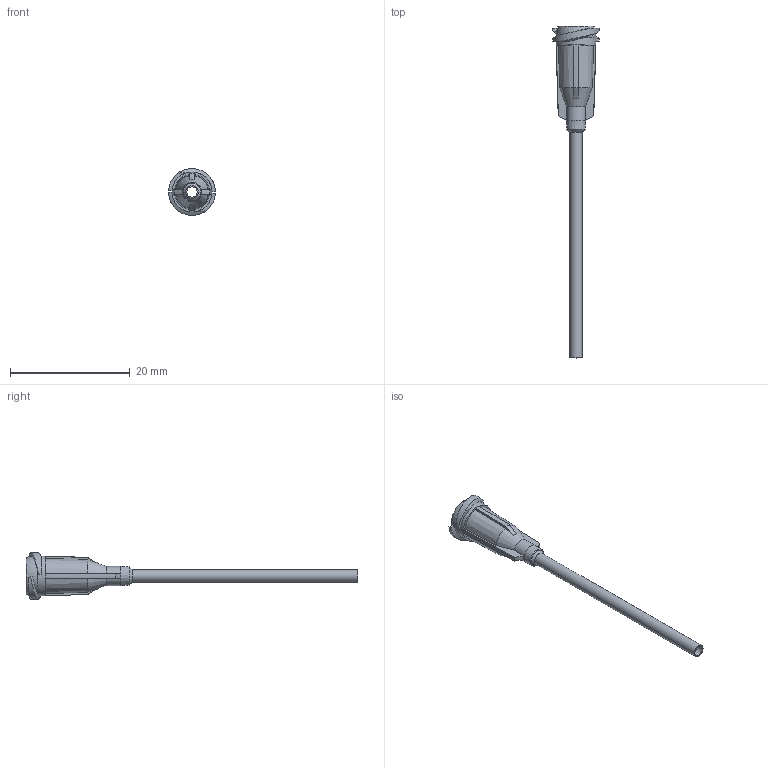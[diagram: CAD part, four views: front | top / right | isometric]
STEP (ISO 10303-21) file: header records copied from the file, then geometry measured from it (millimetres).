
FILE_DESCRIPTION (( 'STEP AP214' ), '1' );
FILE_NAME ('DAV TE 14 15.STEP', '2023-09-28T15:24:31', ( '' ), ( '' ), 'SwSTEP 2.0', 'SolidWorks 2022', '' );
FILE_SCHEMA (( 'AUTOMOTIVE_DESIGN' ));
Length unit declared in the file: millimetre
Products named in the file (1): DAV TE 14 15
Bounding box: 7.82 x 55.47 x 7.82 mm (x, y, z)
Volume: 286.2 mm3; surface area: 1015.1 mm2
Topology: 1 solids, 1 shells, 63 faces, 161 edges, 101 vertices
Faces by surface type: plane 23, cone 16, bspline 10, cylinder 7, torus 7
Full cylindrical faces by diameter (mm): 1.77 x1, 2.11 x1, 2.87 x1, 6.655 x1
Entity records: 2066 total; most frequent: CARTESIAN_POINT 796, ORIENTED_EDGE 262, DIRECTION 228, EDGE_CURVE 131, AXIS2_PLACEMENT_3D 99, VERTEX_POINT 89, EDGE_LOOP 80, FACE_OUTER_BOUND 71
